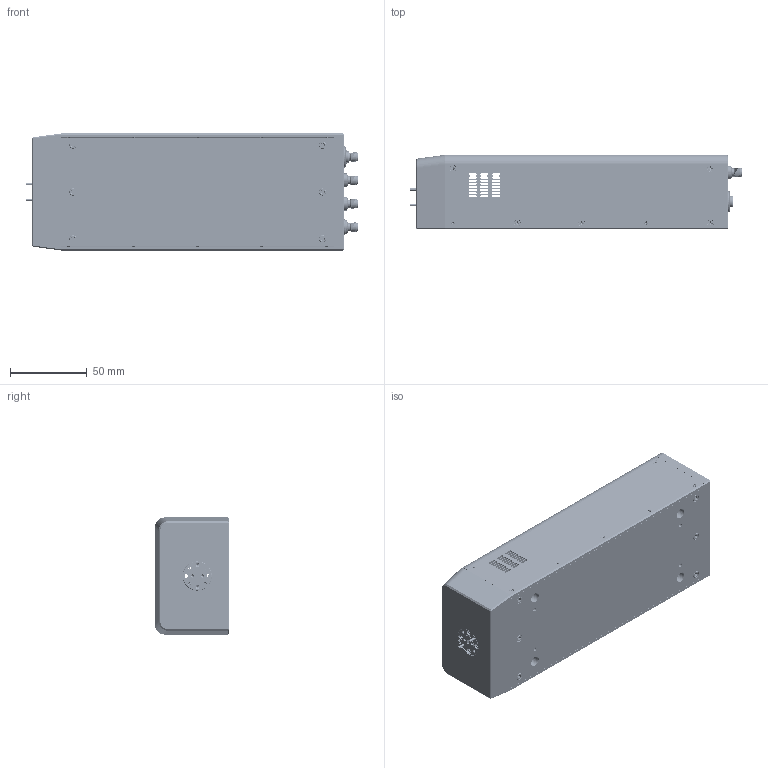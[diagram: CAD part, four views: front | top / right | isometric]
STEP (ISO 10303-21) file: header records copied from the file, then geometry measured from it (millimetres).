
FILE_DESCRIPTION (( 'STEP AP214' ), '1' );
FILE_NAME ('TO-SE-A-2 Mountable.STEP', '2025-07-09T20:03:56', ( '' ), ( '' ), 'SwSTEP 2.0', 'SolidWorks 2021', '' );
FILE_SCHEMA (( 'AUTOMOTIVE_DESIGN' ));
Length unit declared in the file: inch
Products named in the file (1): TO-SE-A-2 Mountable
Bounding box: 216.16 x 48.26 x 76.2 mm (x, y, z)
Volume: 203002.1 mm3; surface area: 136885.2 mm2
Topology: 83 solids, 83 shells, 4693 faces, 12659 edges, 8134 vertices
Faces by surface type: cylinder 2515, plane 1108, cone 654, bspline 412, torus 4
Entity records: 324024 total; most frequent: CARTESIAN_POINT 158802, ORIENTED_EDGE 25070, DIRECTION 17888, EDGE_CURVE 12535, VERTEX_POINT 8134, AXIS2_PLACEMENT_3D 6601, EDGE_LOOP 5131, LENGTH_MEASURE_WITH_UNIT 4745
